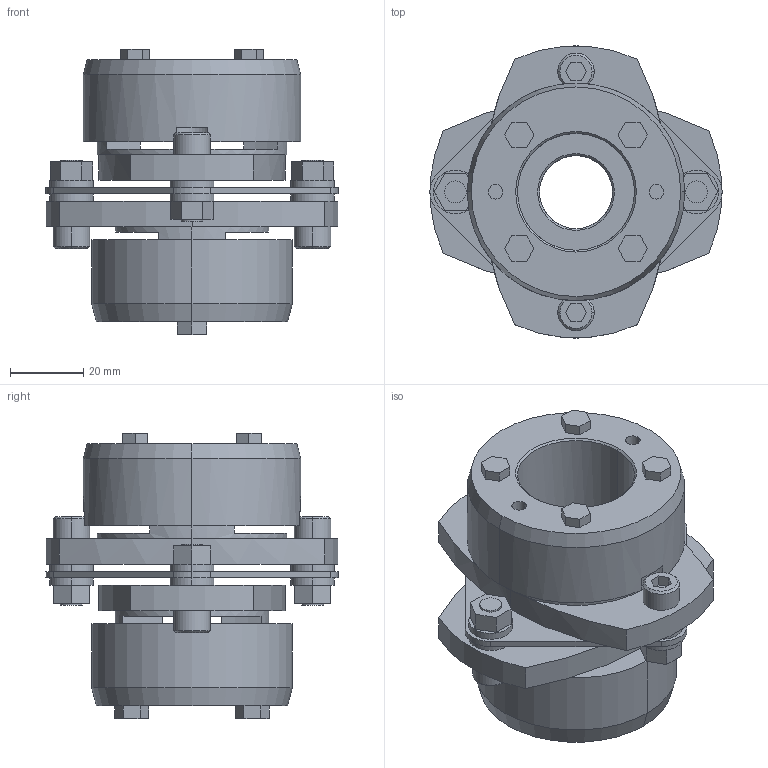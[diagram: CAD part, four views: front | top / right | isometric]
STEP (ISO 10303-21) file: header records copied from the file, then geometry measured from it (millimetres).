
FILE_DESCRIPTION((''),'2;1');
FILE_NAME('LCS-80T7-20×32.stp','2011-09-12T15:30:26',(''),(''),'AutoCAD STEP 2000i','AutoCAD 2000i',', , ');
FILE_SCHEMA(('CONFIG_CONTROL_DESIGN'));
Length unit declared in the file: millimetre
Products named in the file (12): LCS-80T7-19×32; 忣兜1; LC80T7-T032; LC80T7-T030; LC80T7-T028; LC80T7-T024; LC80T7-T022; LC80T7-T019-1; LC80T7-T019; LC80T7-T017-1; LC80T7-T017; LCS80-ITA
Assembly tree (11 placements, depth 2):
  LCS-80T7-19×32
    忣兜1
    LC80T7-T032
    LC80T7-T030
    LC80T7-T028
    LC80T7-T024
    LC80T7-T022
    LC80T7-T019-1
    LC80T7-T019
    LC80T7-T017-1
    LC80T7-T017
    LCS80-ITA
Bounding box: 80 x 79.95 x 78.05 mm (x, y, z)
Volume: 145697.3 mm3; surface area: 42814 mm2
Topology: 1 solids, 1 shells, 239 faces, 588 edges, 384 vertices
Faces by surface type: plane 137, cylinder 82, cone 20
Entity records: 7367 total; most frequent: DIRECTION 1302, CARTESIAN_POINT 1223, ORIENTED_EDGE 1176, EDGE_CURVE 588, AXIS2_PLACEMENT_3D 463, VERTEX_POINT 384, VECTOR 376, LINE 376
